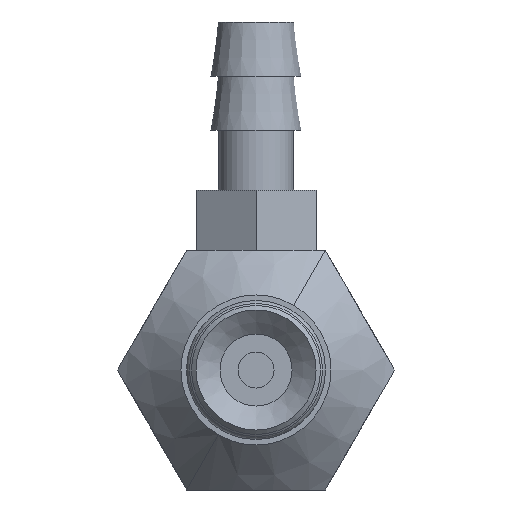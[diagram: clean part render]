
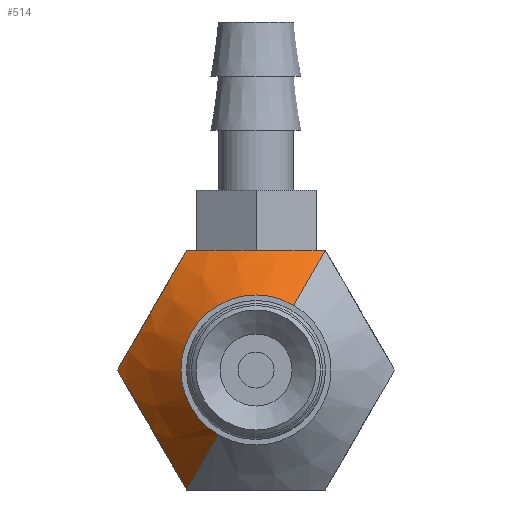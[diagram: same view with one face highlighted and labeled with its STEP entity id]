
A CAD part, front view. The second image highlights one B-rep face of the part: STEP entity #514.
In plain terms, the highlighted conical face has half-angle 45 degrees and reference radius 2.5 mm.
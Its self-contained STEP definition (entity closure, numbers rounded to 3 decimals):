
#514=ADVANCED_FACE('',(#724),#725,.T.);
#724=FACE_OUTER_BOUND('',#1058,.T.);
#725=CONICAL_SURFACE('',#1059,2.5,0.785);
#1058=EDGE_LOOP('',(#1701,#1702,#1703,#1704,#1705,#1706));
#1059=AXIS2_PLACEMENT_3D('',#1707,#1708,#1709);
#1701=ORIENTED_EDGE('',*,*,#2411,.F.);
#1702=ORIENTED_EDGE('',*,*,#2412,.T.);
#1703=ORIENTED_EDGE('',*,*,#2413,.F.);
#1704=ORIENTED_EDGE('',*,*,#2414,.F.);
#1705=ORIENTED_EDGE('',*,*,#2407,.F.);
#1706=ORIENTED_EDGE('',*,*,#2415,.F.);
#1707=CARTESIAN_POINT('',(0.0,0.,0.0));
#1708=DIRECTION('',(-0.0,1.0,0.0));
#1709=DIRECTION('',(0.866,0.0,-0.5));
#2407=EDGE_CURVE('',#2785,#2786,#2787,.T.);
#2411=EDGE_CURVE('',#2792,#2793,#2794,.T.);
#2412=EDGE_CURVE('',#2792,#2721,#2795,.T.);
#2413=EDGE_CURVE('',#2796,#2721,#2797,.T.);
#2414=EDGE_CURVE('',#2786,#2796,#2798,.T.);
#2415=EDGE_CURVE('',#2793,#2785,#2799,.T.);
#2721=VERTEX_POINT('',#3304);
#2785=VERTEX_POINT('',#3427);
#2786=VERTEX_POINT('',#3428);
#2787=B_SPLINE_CURVE_WITH_KNOTS('',3,(#3429,#3430,#3431,#3432,#3433,#3434,#3435,#3436,#3437,#3438,#3439,#3440),.UNSPECIFIED.,.F.,.F.,(4,2,2,2,2,4),(0.0,0.001,0.002,0.002,0.004,0.005),.UNSPECIFIED.);
#2792=VERTEX_POINT('',#3450);
#2793=VERTEX_POINT('',#3451);
#2794=CIRCLE('',#3452,2.5);
#2795=LINE('',#3453,#3454);
#2796=VERTEX_POINT('',#3455);
#2797=B_SPLINE_CURVE_WITH_KNOTS('',3,(#3456,#3457,#3458,#3459,#3460,#3461,#3462,#3463,#3464,#3465,#3466,#3467),.UNSPECIFIED.,.F.,.F.,(4,2,2,2,2,4),(0.0,0.001,0.002,0.002,0.004,0.005),.UNSPECIFIED.);
#2798=B_SPLINE_CURVE_WITH_KNOTS('',3,(#3468,#3469,#3470,#3471,#3472,#3473,#3474,#3475,#3476,#3477,#3478,#3479),.UNSPECIFIED.,.F.,.F.,(4,2,2,2,2,4),(0.,0.001,0.002,0.002,0.004,0.005),.UNSPECIFIED.);
#2799=LINE('',#3480,#3481);
#3304=CARTESIAN_POINT('',(2.309,2.119,4.0));
#3427=CARTESIAN_POINT('',(-2.309,2.119,-4.0));
#3428=CARTESIAN_POINT('',(-4.619,2.119,0.));
#3429=CARTESIAN_POINT('',(-2.309,2.119,-4.0));
#3430=CARTESIAN_POINT('',(-2.49,1.938,-3.687));
#3431=CARTESIAN_POINT('',(-2.674,1.785,-3.368));
#3432=CARTESIAN_POINT('',(-2.961,1.621,-2.871));
#3433=CARTESIAN_POINT('',(-3.058,1.577,-2.703));
#3434=CARTESIAN_POINT('',(-3.257,1.517,-2.359));
#3435=CARTESIAN_POINT('',(-3.359,1.5,-2.182));
#3436=CARTESIAN_POINT('',(-3.661,1.499,-1.658));
#3437=CARTESIAN_POINT('',(-3.86,1.56,-1.315));
#3438=CARTESIAN_POINT('',(-4.25,1.782,-0.638));
#3439=CARTESIAN_POINT('',(-4.437,1.937,-0.314));
#3440=CARTESIAN_POINT('',(-4.619,2.119,0.));
#3450=CARTESIAN_POINT('',(1.25,0.,2.165));
#3451=CARTESIAN_POINT('',(-1.25,0.,-2.165));
#3452=AXIS2_PLACEMENT_3D('',#4010,#4011,#4012);
#3453=CARTESIAN_POINT('',(1.78,1.059,3.083));
#3454=VECTOR('',#4013,1.0);
#3455=CARTESIAN_POINT('',(-2.309,2.119,4.0));
#3456=CARTESIAN_POINT('',(-2.309,2.119,4.0));
#3457=CARTESIAN_POINT('',(-1.949,1.938,4.0));
#3458=CARTESIAN_POINT('',(-1.58,1.785,4.0));
#3459=CARTESIAN_POINT('',(-1.006,1.621,4.0));
#3460=CARTESIAN_POINT('',(-0.812,1.577,4.0));
#3461=CARTESIAN_POINT('',(-0.415,1.517,4.0));
#3462=CARTESIAN_POINT('',(-0.21,1.5,4.0));
#3463=CARTESIAN_POINT('',(0.395,1.499,4.0));
#3464=CARTESIAN_POINT('',(0.791,1.56,4.0));
#3465=CARTESIAN_POINT('',(1.573,1.782,4.0));
#3466=CARTESIAN_POINT('',(1.946,1.937,4.0));
#3467=CARTESIAN_POINT('',(2.309,2.119,4.0));
#3468=CARTESIAN_POINT('',(-4.619,2.119,0.0));
#3469=CARTESIAN_POINT('',(-4.438,1.938,0.313));
#3470=CARTESIAN_POINT('',(-4.254,1.785,0.632));
#3471=CARTESIAN_POINT('',(-3.967,1.621,1.129));
#3472=CARTESIAN_POINT('',(-3.87,1.577,1.297));
#3473=CARTESIAN_POINT('',(-3.671,1.517,1.641));
#3474=CARTESIAN_POINT('',(-3.569,1.5,1.818));
#3475=CARTESIAN_POINT('',(-3.267,1.499,2.342));
#3476=CARTESIAN_POINT('',(-3.069,1.56,2.685));
#3477=CARTESIAN_POINT('',(-2.678,1.782,3.362));
#3478=CARTESIAN_POINT('',(-2.491,1.937,3.686));
#3479=CARTESIAN_POINT('',(-2.309,2.119,4.0));
#3480=CARTESIAN_POINT('',(-1.78,1.059,-3.083));
#3481=VECTOR('',#4014,1.0);
#4010=CARTESIAN_POINT('',(0.0,0.,0.0));
#4011=DIRECTION('',(0.0,-1.0,0.0));
#4012=DIRECTION('',(0.0,0.0,-1.0));
#4013=DIRECTION('',(0.354,0.707,0.612));
#4014=DIRECTION('',(-0.354,0.707,-0.612));
